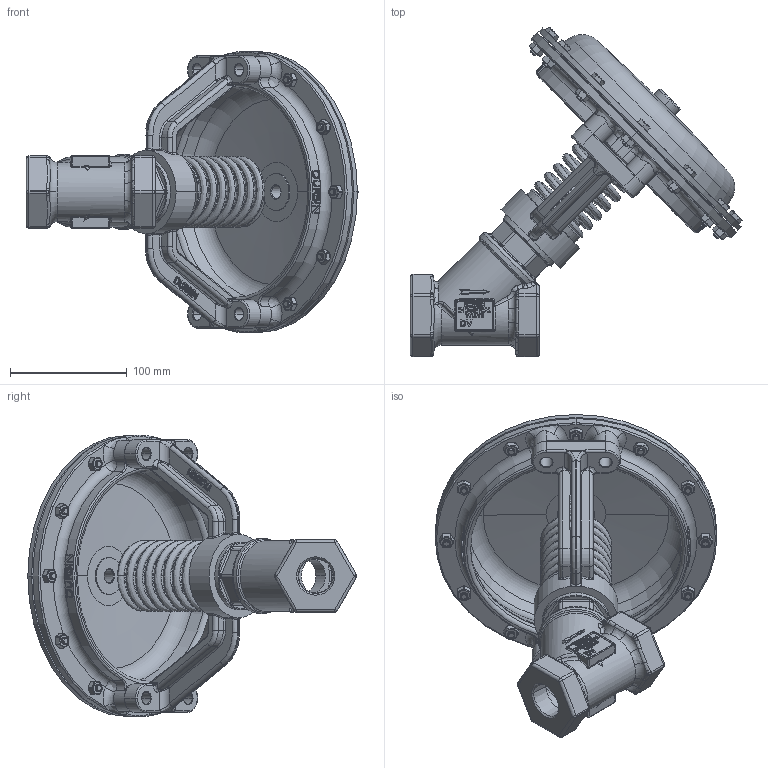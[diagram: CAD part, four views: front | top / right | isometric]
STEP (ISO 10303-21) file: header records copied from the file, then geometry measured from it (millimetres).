
FILE_DESCRIPTION (( 'STEP AP203' ), '1' );
FILE_NAME ('1.00-1.25 2W S TOP 2 NO NPT DV-STEP.STEP', '2018-11-07T18:00:56', ( '' ), ( '' ), 'SwSTEP 2.0', 'SolidWorks 2012', '' );
FILE_SCHEMA (( 'CONFIG_CONTROL_DESIGN' ));
Length unit declared in the file: inch
Products named in the file (13): 1.00-1.25 2W S TOP 2 NO NPT DV-STEP; H096-10; H060-03; D293-070DR; C383-074D; C293-030DR; D771; C293-030DM; C893-022D-SS; DV231-SS; DV58-SS; DV259-SS; DV334-SS
Assembly tree (34 placements, depth 3):
  1.00-1.25 2W S TOP 2 NO NPT DV-STEP
    DV334-SS
    DV259-SS
    DV58-SS
    DV231-SS
    C893-022D-SS
    C293-030DR
      C293-030DM
      D771
    C383-074D
    D293-070DR
    H060-03  x12
    H096-10  x12
Bounding box: 284.93 x 282.85 x 241.81 mm (x, y, z)
Volume: 1037612.9 mm3; surface area: 365413.7 mm2
Topology: 33 solids, 33 shells, 3792 faces, 8897 edges, 5239 vertices
Faces by surface type: plane 1188, bspline 795, cylinder 732, cone 452, sphere 316, torus 309
Entity records: 121784 total; most frequent: CARTESIAN_POINT 61958, ORIENTED_EDGE 12916, DIRECTION 10695, EDGE_CURVE 6458, VERTEX_POINT 4025, AXIS2_PLACEMENT_3D 3979, EDGE_LOOP 2837, LINE 2737
